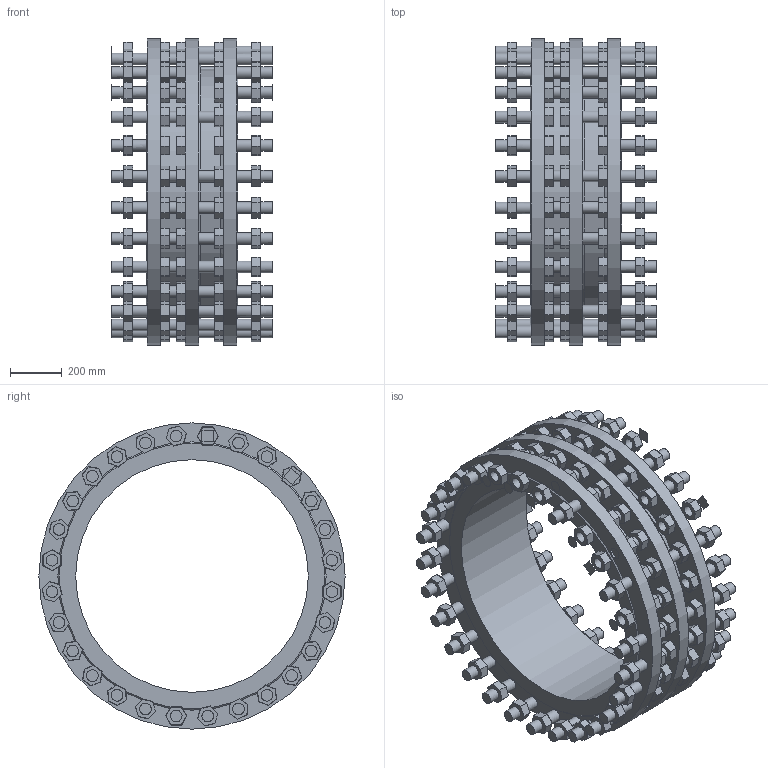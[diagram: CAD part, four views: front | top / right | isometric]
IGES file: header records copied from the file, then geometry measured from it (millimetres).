
Start section: SolidWorks IGES file using analytic representation for surfaces
Global section: file name: X:\AR\CV\873\873-0900-00-741000\873090000741000.IGS; native system: SolidWorks 2020; preprocessor: SolidWorks 2020; author: m.lucatello; date: 211105.111914; units: millimetre
Bounding box: 620 x 1185 x 1185 mm (x, y, z)
Surface area: 8794028.6 mm2 (no closed solid volume)
Topology: 0 solids, 0 shells, 3129 faces, 13144 edges, 12882 vertices
Faces by surface type: bspline 2865, revolution 264
